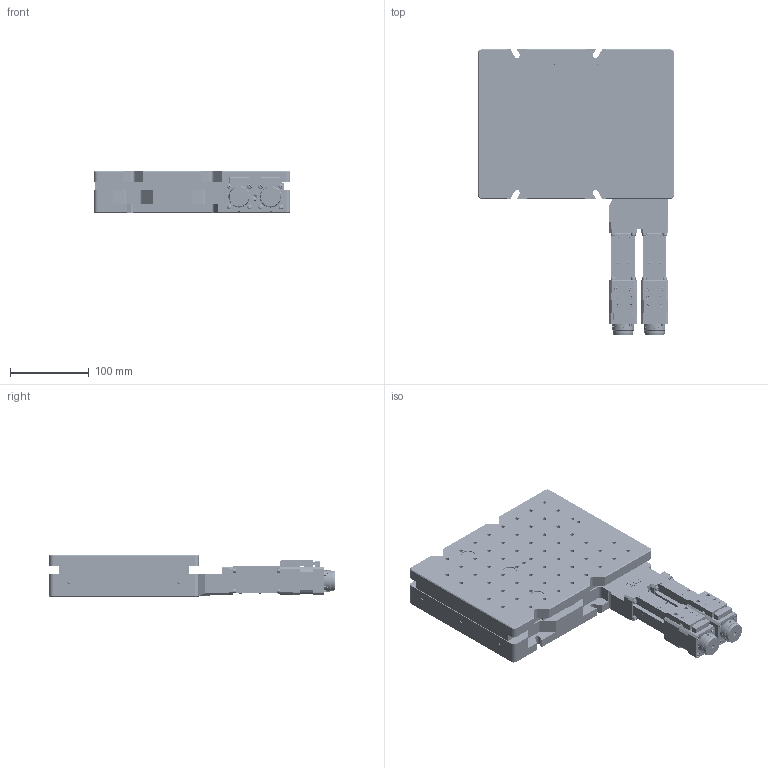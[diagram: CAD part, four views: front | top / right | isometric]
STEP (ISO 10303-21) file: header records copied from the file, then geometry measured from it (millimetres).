
FILE_DESCRIPTION(/* description */ (''),/* implementation_level */ '2;1');
FILE_NAME(/* name */ 'U:\KONSTRUKTORIAI\DOKUMENTACIJA\8\8MTP250\STEP\8MTP250 SB.stp',/* time_stamp */ '2023-02-27T08:49:42+02:00',/* author */ ('dsgn32'),/* organization */ (''),/* preprocessor_version */ 'ST-DEVELOPER v15.2',/* originating_system */ 'Autodesk Inventor 2014',/* authorisation */ '');
FILE_SCHEMA (('CONFIG_CONTROL_DESIGN'));
Products named in the file (1): 8MTP250 SB
Bounding box: 250 x 363 x 54 mm (x, y, z)
Volume: 2680364.8 mm3; surface area: 277170.3 mm2
Topology: 4 solids, 170 shells, 6442 faces, 16746 edges, 11071 vertices
Faces by surface type: plane 3619, cylinder 1150, bspline 1148, cone 385, torus 118, sphere 22
Full cylindrical faces by diameter (mm): 1.567 x22, 1.783 x8, 2 x30, 2.013 x8, 2.4 x16, 2.459 x33, 2.5 x14, 2.75 x8, 2.9 x4, 3 x37, 3.2 x2, 3.4 x34, 3.8 x8, 4 x3, 4.134 x4, 4.2 x59, 4.3 x8, 4.5 x4, 4.8 x1, 4.917 x66, 5 x12, 5.188 x2, 5.5 x26, 6 x21, 6.1 x10, 6.6 x3, 7 x6, 7.2 x2, 8 x2, 9 x6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
Entity records: 330515 total; most frequent: CARTESIAN_POINT 181801, ORIENTED_EDGE 31002, DIRECTION 25435, EDGE_CURVE 15492, VERTEX_POINT 10698, LINE 8783, VECTOR 8783, AXIS2_PLACEMENT_3D 8326
